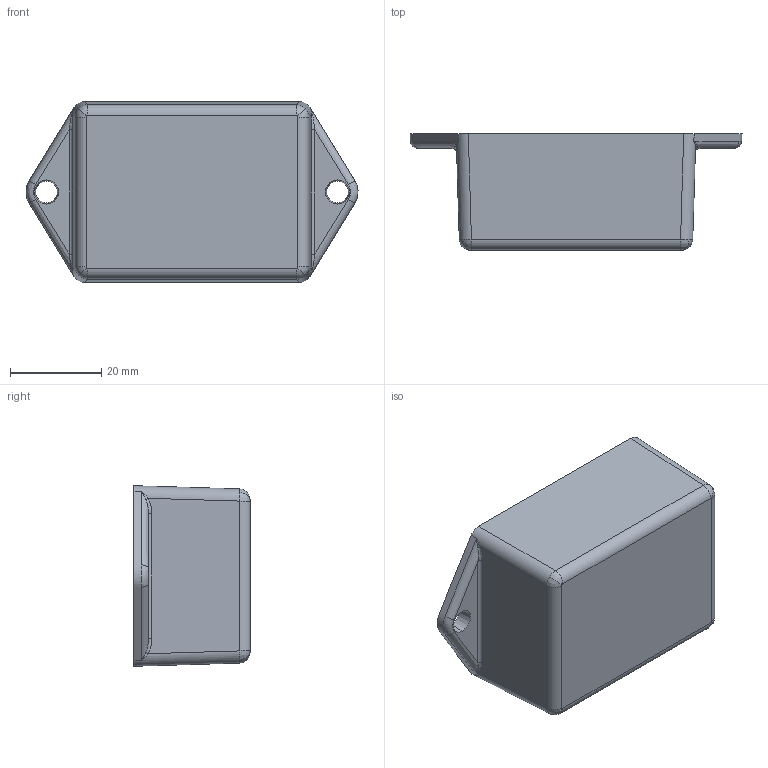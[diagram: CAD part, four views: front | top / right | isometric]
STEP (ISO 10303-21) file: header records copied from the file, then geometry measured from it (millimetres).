
FILE_DESCRIPTION (( 'STEP AP214' ), '1' );
FILE_NAME ('TF-1521TX .STEP', '2010-07-09T19:04:33', ( 'steve began' ), ( 'polycase' ), 'SwSTEP 2.0', 'SolidWorks 2010', '' );
FILE_SCHEMA (( 'AUTOMOTIVE_DESIGN' ));
Length unit declared in the file: inch
Products named in the file (1): TF-1521TX 
Bounding box: 72.61 x 25.4 x 39.5 mm (x, y, z)
Volume: 10798 mm3; surface area: 12837.8 mm2
Topology: 1 solids, 1 shells, 76 faces, 196 edges, 120 vertices
Faces by surface type: bspline 36, plane 18, cylinder 18, cone 4
Entity records: 3044 total; most frequent: CARTESIAN_POINT 1465, ORIENTED_EDGE 384, DIRECTION 244, EDGE_CURVE 192, VERTEX_POINT 120, AXIS2_PLACEMENT_3D 87, EDGE_LOOP 82, ADVANCED_FACE 76
